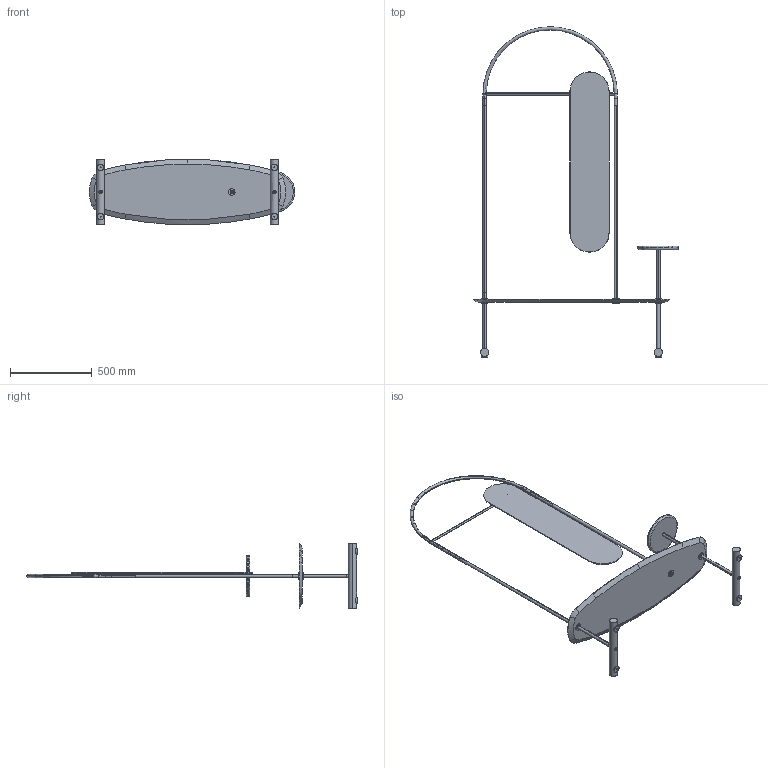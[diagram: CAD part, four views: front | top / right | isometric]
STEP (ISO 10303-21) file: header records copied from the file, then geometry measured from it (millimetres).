
FILE_DESCRIPTION (( 'STEP AP214' ), '1' );
FILE_NAME ('ARCO_NOMON.STEP', '2022-07-04T10:37:50', ( '' ), ( '' ), 'SwSTEP 2.0', 'SolidWorks 2016', '' );
FILE_SCHEMA (( 'AUTOMOTIVE_DESIGN' ));
Length unit declared in the file: millimetre
Products named in the file (13): ARCO SUPERIOR R40 MITAD SUPERIOR; BALDA BURRO v2; GANCHO PARA ESPEJO; TRASERA ESPEJO BURRO; PIE_RECTO_SISTEMA_PUNTERO; BANDEJA_TOALLERO; TUBO ARCO SUPERIOR; TORNILLO M10 ALLEN x 5cm; MACHO MACIZO PARA PATA U; ARANDELA DE REFUERZO PARA BURRO; PATA DE TUBO BURRO; 10069639; ARCO_NOMON
Assembly tree (27 placements, depth 2):
  ARCO_NOMON
    PATA DE TUBO BURRO  x3
    PIE_RECTO_SISTEMA_PUNTERO  x2
    ARANDELA DE REFUERZO PARA BURRO  x6
    BANDEJA_TOALLERO
    TRASERA ESPEJO BURRO
    TORNILLO M10 ALLEN x 5cm  x3
    BALDA BURRO v2
    GANCHO PARA ESPEJO
    ARCO SUPERIOR R40 MITAD SUPERIOR
    TUBO ARCO SUPERIOR  x2
    10069639  x4
    MACHO MACIZO PARA PATA U  x2
Bounding box: 1254.99 x 2016.7 x 400 mm (x, y, z)
Volume: 13548513.8 mm3; surface area: 2287460 mm2
Topology: 31 solids, 31 shells, 378 faces, 818 edges, 516 vertices
Faces by surface type: cylinder 199, plane 112, cone 45, torus 20, bspline 2
Entity records: 10066 total; most frequent: CARTESIAN_POINT 3837, DIRECTION 1232, ORIENTED_EDGE 1060, EDGE_CURVE 530, AXIS2_PLACEMENT_3D 515, VERTEX_POINT 328, EDGE_LOOP 278, CIRCLE 252
